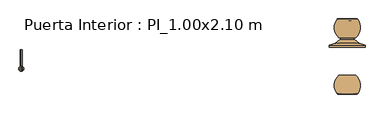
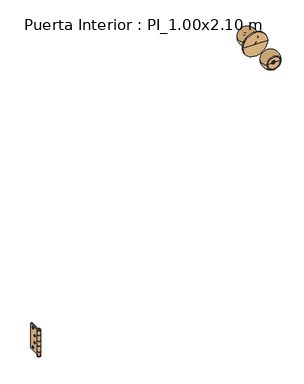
"""IFC4 building model written with IfcOpenShell, lengths in millimetres: door geometry, Puerta Interior : PI_1.00x2.10 m."""

from ifc_helpers import new_model, si_unit, point, frame, origin, place, context, project, spatial, polyline, circle_curve, ellipse_curve, trimmed, source, transform, mapped, element, save
from ifc_brep_helpers import plane_surface, cylinder_surface, revolved_surface, advanced_brep


def puerta_interior_pi_1_00x2_10_m_a31ecc94(model_context):
    return source(origin(), model_context, "Body", "AdvancedBrep", [
        advanced_brep(
        [(-464.0, -7.5, 200.0349265), (-464.0, -51.5, 200.0349265), (-464.0, -51.5, 184.5349265), (-464.0, -51.0, 184.5349265), (-464.0, -51.0, 159.0349265), (-464.0, -51.5, 159.0349265), (-464.0, -51.5, 141.0349265), (-464.0, -51.0, 141.0349265), (-464.0, -51.0, 115.5349265), (-464.0, -51.5, 115.5349265), (-464.0, -51.5, 100.0349265), (-464.0, -7.5, 100.0349265), (-464.0, -17.5, 111.0349265), (-464.0, -25.5, 111.0349265), (-464.0, -28.5, 136.0349265), (-464.0, -36.5, 136.0349265), (-464.0, -17.5, 189.0349265), (-464.0, -25.5, 189.0349265), (-464.0, -28.5, 164.0349265), (-464.0, -36.5, 164.0349265), (-466.0, -7.5, 100.0349265), (-466.0, -53.027864, 100.0349265), (-466.0, -53.027864, 115.5349265), (-466.0, -51.0, 115.5349265), (-466.0, -51.0, 141.0349265), (-466.0, -53.027864, 141.0349265), (-466.0, -53.027864, 159.0349265), (-466.0, -51.0, 159.0349265), (-466.0, -51.0, 184.5349265), (-466.0, -53.027864, 184.5349265), (-466.0, -53.027864, 200.0349265), (-466.0, -7.5, 200.0349265), (-466.0, -25.5, 111.0349265), (-466.0, -17.5, 111.0349265), (-466.0, -36.5, 136.0349265), (-466.0, -28.5, 136.0349265), (-466.0, -25.5, 189.0349265), (-466.0, -17.5, 189.0349265), (-466.0, -36.5, 164.0349265), (-466.0, -28.5, 164.0349265), (-467.0, -51.0192593, 100.0349265), (-467.0, -53.027864, 100.0349265), (-467.0, -53.027864, 200.0349265), (-467.0, -51.0192593, 200.0349265), (-467.0, -51.0192593, 184.5349265), (-467.0, -53.027864, 184.5349265), (-467.0, -53.027864, 159.0349265), (-467.0, -51.0192593, 159.0349265), (-467.0, -51.0192593, 141.0349265), (-467.0, -53.027864, 141.0349265), (-467.0, -53.027864, 115.5349265), (-467.0, -51.0192593, 115.5349265)],
        [
            (0, 1),
            (1, 2),
            (2, 3),
            (3, 4),
            (4, 5),
            (5, 6),
            (6, 7),
            (7, 8),
            (8, 9),
            (9, 10),
            (10, 11),
            (11, 0),
            (12, 13, circle_curve(frame((-464.0, -21.5, 111.0349265), z_axis=(-1.0, 0.0, 0.0), x_axis=(0.0, 1.0, 0.0)), 4.0)),
            (13, 12, circle_curve(frame((-464.0, -21.5, 111.0349265), z_axis=(-1.0, 0.0, 0.0), x_axis=(0.0, 1.0, 0.0)), 4.0)),
            (14, 15, circle_curve(frame((-464.0, -32.5, 136.0349265), z_axis=(-1.0, 0.0, 0.0), x_axis=(0.0, 1.0, 0.0)), 4.0)),
            (15, 14, circle_curve(frame((-464.0, -32.5, 136.0349265), z_axis=(-1.0, 0.0, 0.0), x_axis=(0.0, 1.0, 0.0)), 4.0)),
            (16, 17, circle_curve(frame((-464.0, -21.5, 189.0349265), z_axis=(-1.0, 0.0, 0.0), x_axis=(0.0, 1.0, 0.0)), 4.0)),
            (17, 16, circle_curve(frame((-464.0, -21.5, 189.0349265), z_axis=(-1.0, 0.0, 0.0), x_axis=(0.0, 1.0, 0.0)), 4.0)),
            (18, 19, circle_curve(frame((-464.0, -32.5, 164.0349265), z_axis=(-1.0, 0.0, 0.0), x_axis=(0.0, 1.0, 0.0)), 4.0)),
            (19, 18, circle_curve(frame((-464.0, -32.5, 164.0349265), z_axis=(-1.0, 0.0, 0.0), x_axis=(0.0, 1.0, 0.0)), 4.0)),
            (20, 21),
            (21, 22),
            (22, 23),
            (23, 24),
            (24, 25),
            (25, 26),
            (26, 27),
            (27, 28),
            (28, 29),
            (29, 30),
            (30, 31),
            (31, 20),
            (32, 33, circle_curve(frame((-466.0, -21.5, 111.0349265), z_axis=(1.0, 0.0, 0.0), x_axis=(0.0, 1.0, 0.0)), 4.0)),
            (33, 32, circle_curve(frame((-466.0, -21.5, 111.0349265), z_axis=(1.0, 0.0, 0.0), x_axis=(0.0, 1.0, 0.0)), 4.0)),
            (34, 35, circle_curve(frame((-466.0, -32.5, 136.0349265), z_axis=(1.0, 0.0, 0.0), x_axis=(0.0, 1.0, 0.0)), 4.0)),
            (35, 34, circle_curve(frame((-466.0, -32.5, 136.0349265), z_axis=(1.0, 0.0, 0.0), x_axis=(0.0, 1.0, 0.0)), 4.0)),
            (36, 37, circle_curve(frame((-466.0, -21.5, 189.0349265), z_axis=(1.0, 0.0, 0.0), x_axis=(0.0, 1.0, 0.0)), 4.0)),
            (37, 36, circle_curve(frame((-466.0, -21.5, 189.0349265), z_axis=(1.0, 0.0, 0.0), x_axis=(0.0, 1.0, 0.0)), 4.0)),
            (38, 39, circle_curve(frame((-466.0, -32.5, 164.0349265), z_axis=(1.0, 0.0, 0.0), x_axis=(0.0, 1.0, 0.0)), 4.0)),
            (39, 38, circle_curve(frame((-466.0, -32.5, 164.0349265), z_axis=(1.0, 0.0, 0.0), x_axis=(0.0, 1.0, 0.0)), 4.0)),
            (10, 40, circle_curve(frame((-466.5, -57.5, 100.0349265), z_axis=(0.0, 0.0, -1.0), x_axis=(0.0, -1.0, 0.0)), 6.5)),
            (40, 41),
            (41, 21, circle_curve(frame((-466.5, -57.5, 100.0349265), z_axis=(0.0, 0.0, 1.0), x_axis=(0.0, -1.0, 0.0)), 4.5)),
            (20, 11),
            (31, 0),
            (30, 42, circle_curve(frame((-466.5, -57.5, 200.0349265), z_axis=(0.0, 0.0, -1.0), x_axis=(0.0, -1.0, 0.0)), 4.5)),
            (42, 43),
            (43, 1, circle_curve(frame((-466.5, -57.5, 200.0349265), z_axis=(0.0, 0.0, 1.0), x_axis=(0.0, -1.0, 0.0)), 6.5)),
            (27, 4),
            (3, 28),
            (23, 8),
            (7, 24),
            (2, 44, circle_curve(frame((-466.5, -57.5, 184.5349265), z_axis=(0.0, 0.0, -1.0), x_axis=(0.0, -1.0, 0.0)), 6.5)),
            (44, 45),
            (45, 29, circle_curve(frame((-466.5, -57.5, 184.5349265), z_axis=(0.0, 0.0, 1.0), x_axis=(0.0, -1.0, 0.0)), 4.5)),
            (43, 44),
            (42, 45),
            (26, 46, circle_curve(frame((-466.5, -57.5, 159.0349265), z_axis=(0.0, 0.0, -1.0), x_axis=(0.0, -1.0, 0.0)), 4.5)),
            (46, 47),
            (47, 5, circle_curve(frame((-466.5, -57.5, 159.0349265), z_axis=(0.0, 0.0, 1.0), x_axis=(0.0, -1.0, 0.0)), 6.5)),
            (6, 48, circle_curve(frame((-466.5, -57.5, 141.0349265), z_axis=(0.0, 0.0, -1.0), x_axis=(0.0, -1.0, 0.0)), 6.5)),
            (48, 49),
            (49, 25, circle_curve(frame((-466.5, -57.5, 141.0349265), z_axis=(0.0, 0.0, 1.0), x_axis=(0.0, -1.0, 0.0)), 4.5)),
            (47, 48),
            (46, 49),
            (22, 50, circle_curve(frame((-466.5, -57.5, 115.5349265), z_axis=(0.0, 0.0, -1.0), x_axis=(0.0, -1.0, 0.0)), 4.5)),
            (50, 51),
            (51, 9, circle_curve(frame((-466.5, -57.5, 115.5349265), z_axis=(0.0, 0.0, 1.0), x_axis=(0.0, -1.0, 0.0)), 6.5)),
            (51, 40),
            (50, 41),
            (33, 12),
            (13, 32),
            (35, 14),
            (15, 34),
            (37, 16),
            (17, 36),
            (39, 18),
            (19, 38),
        ],
        [
            plane_surface(frame((-464.0, -51.0, 100.0349265), z_axis=(1.0, 0.0, 0.0), x_axis=(0.0, 0.0, 1.0))),
            plane_surface(frame((-466.0, -51.0, 100.0349265), z_axis=(-1.0, 0.0, 0.0), x_axis=(0.0, 0.0, -1.0))),
            plane_surface(frame((-464.0, -7.5, 100.0349265), z_axis=(0.0, 0.0, -1.0), x_axis=(-1.0, 0.0, 0.0))),
            plane_surface(frame((-464.0, -7.5, 200.0349265), z_axis=(0.0, 1.0, 0.0), x_axis=(-1.0, 0.0, 0.0))),
            plane_surface(frame((-464.0, -51.0, 200.0349265), z_axis=(0.0, 0.0, 1.0), x_axis=(-1.0, 0.0, 0.0))),
            plane_surface(frame((-464.0, -51.0, 100.0349265), z_axis=(0.0, -1.0, 0.0), x_axis=(-1.0, 0.0, 0.0))),
            plane_surface(frame((-466.0, -51.0, 184.5349265), z_axis=(0.0, 0.0, -1.0), x_axis=(0.0, -1.0, 0.0))),
            cylinder_surface(frame((-466.5, -57.5, 184.5349265), z_axis=(0.0, 0.0, 1.0), x_axis=(0.0, -1.0, 0.0)), 6.5),
            plane_surface(frame((-467.0, -51.0192593, 200.0349265), z_axis=(1.0, 0.0, 0.0), x_axis=(0.0, 0.0, -1.0))),
            revolved_surface(polyline([(-466.5, -62.0, 184.5349265), (-466.5, -62.0, 200.0349265)]), (-466.5, -57.5, 184.5349265), (0.0, 0.0, -1.0)),
            plane_surface(frame((-466.0, -51.0, 159.0349265), z_axis=(0.0, 0.0, 1.0), x_axis=(0.0, 1.0, 0.0))),
            plane_surface(frame((-466.0, -51.0, 141.0349265), z_axis=(0.0, 0.0, -1.0), x_axis=(0.0, -1.0, 0.0))),
            cylinder_surface(frame((-466.5, -57.5, 141.0349265), z_axis=(0.0, 0.0, 1.0), x_axis=(0.0, -1.0, 0.0)), 6.5),
            plane_surface(frame((-467.0, -51.0192593, 159.0349265), z_axis=(1.0, 0.0, 0.0), x_axis=(0.0, 0.0, -1.0))),
            revolved_surface(polyline([(-466.5, -62.0, 141.0349265), (-466.5, -62.0, 159.0349265)]), (-466.5, -57.5, 141.0349265), (0.0, 0.0, -1.0)),
            plane_surface(frame((-466.0, -51.0, 115.5349265), z_axis=(0.0, 0.0, 1.0), x_axis=(0.0, 1.0, 0.0))),
            cylinder_surface(frame((-466.5, -57.5, 100.0349265), z_axis=(0.0, 0.0, 1.0), x_axis=(0.0, -1.0, 0.0)), 6.5),
            plane_surface(frame((-467.0, -51.0192593, 115.5349265), z_axis=(1.0, 0.0, 0.0), x_axis=(0.0, 0.0, -1.0))),
            revolved_surface(polyline([(-466.5, -62.0, 100.0349265), (-466.5, -62.0, 115.5349265)]), (-466.5, -57.5, 100.0349265), (0.0, 0.0, -1.0)),
            revolved_surface(polyline([(-464.0, -17.5, 111.0349265), (-466.0, -17.5, 111.0349265)]), (-469.0, -21.5, 111.0349265), (1.0, 0.0, 0.0)),
            revolved_surface(polyline([(-464.0, -28.5, 136.0349265), (-466.0, -28.5, 136.0349265)]), (-467.0, -32.5, 136.0349265), (1.0, 0.0, 0.0)),
            revolved_surface(polyline([(-464.0, -17.5, 189.0349265), (-466.0, -17.5, 189.0349265)]), (-467.0, -21.5, 189.0349265), (1.0, 0.0, 0.0)),
            revolved_surface(polyline([(-464.0, -28.5, 164.0349265), (-466.0, -28.5, 164.0349265)]), (-467.0, -32.5, 164.0349265), (1.0, 0.0, 0.0)),
        ],
        [
            (0, [[1, 2, 3, 4, 5, 6, 7, 8, 9, 10, 11, 12], [13, 14], [15, 16], [17, 18], [19, 20]]),
            (1, [[21, 22, 23, 24, 25, 26, 27, 28, 29, 30, 31, 32], [33, 34], [35, 36], [37, 38], [39, 40]]),
            (2, [[-11, 41, 42, 43, -21, 44]]),
            (3, [[-44, -32, 45, -12]]),
            (4, [[-31, 46, 47, 48, -1, -45]]),
            (5, [[-28, 49, -4, 50]]),
            (5, [[-24, 51, -8, 52]]),
            (6, [[-29, -50, -3, 53, 54, 55]]),
            (7, [[56, -53, -2, -48]]),
            (8, [[57, -54, -56, -47]]),
            (9, [[-30, -55, -57, -46]]),
            (10, [[-5, -49, -27, 58, 59, 60]]),
            (11, [[-25, -52, -7, 61, 62, 63]]),
            (12, [[64, -61, -6, -60]]),
            (13, [[65, -62, -64, -59]]),
            (14, [[-26, -63, -65, -58]]),
            (15, [[-9, -51, -23, 66, 67, 68]]),
            (16, [[69, -41, -10, -68]]),
            (17, [[70, -42, -69, -67]]),
            (18, [[-22, -43, -70, -66]]),
            (19, [[-34, 71, -14, 72]]),
            (19, [[-13, -71, -33, -72]]),
            (20, [[-36, 73, -16, 74]]),
            (20, [[-15, -73, -35, -74]]),
            (21, [[-38, 75, -18, 76]]),
            (21, [[-17, -75, -37, -76]]),
            (22, [[-40, 77, -20, 78]]),
            (22, [[-19, -77, -39, -78]]),
        ],
    ),
        advanced_brep(
        [(-466.5, -53.0, 204.0349265), (-466.5, -53.0, 200.5349265), (-466.5, -61.9442719, 200.5349265), (-466.5, -61.9442719, 204.0349265), (-466.5, -57.472136, 204.0349265), (-466.5, -53.0, 96.0349265), (-466.5, -57.472136, 96.0349265), (-466.5, -61.9442719, 96.0349265), (-466.5, -53.0, 99.5349265), (-466.5, -61.9442719, 99.5349265)],
        [
            (0, 1, circle_curve(frame((-466.5, -53.0, 202.2849265), z_axis=(-1.0, 0.0, 0.0), x_axis=(0.0, -1.0, 0.0)), 1.75)),
            (1, 2, circle_curve(frame((-466.5, -57.472136, 200.5349265), z_axis=(0.0, 0.0, 1.0), x_axis=(0.0, -1.0, 0.0)), 4.472136)),
            (2, 3, circle_curve(frame((-466.5, -61.9442719, 202.2849265), z_axis=(-1.0, 0.0, 0.0), x_axis=(0.0, 1.0, 0.0)), 1.75)),
            (3, 0, circle_curve(frame((-466.5, -57.472136, 204.0349265), z_axis=(0.0, 0.0, -1.0), x_axis=(0.0, -1.0, 0.0)), 4.472136)),
            (2, 1, circle_curve(frame((-466.5, -57.472136, 200.5349265), z_axis=(0.0, 0.0, 1.0), x_axis=(0.0, -1.0, 0.0)), 4.472136)),
            (0, 3, circle_curve(frame((-466.5, -57.472136, 204.0349265), z_axis=(0.0, 0.0, -1.0), x_axis=(0.0, -1.0, 0.0)), 4.472136)),
            (4, 0),
            (3, 4),
            (5, 6),
            (6, 7),
            (7, 5, circle_curve(frame((-466.5, -57.472136, 96.0349265), z_axis=(0.0, 0.0, -1.0), x_axis=(0.0, -1.0, 0.0)), 4.472136)),
            (5, 7, circle_curve(frame((-466.5, -57.472136, 96.0349265), z_axis=(0.0, 0.0, -1.0), x_axis=(0.0, -1.0, 0.0)), 4.472136)),
            (8, 5, circle_curve(frame((-466.5, -53.0, 97.7849265), z_axis=(-1.0, 0.0, 0.0), x_axis=(0.0, -1.0, 0.0)), 1.75)),
            (7, 9, circle_curve(frame((-466.5, -61.9442719, 97.7849265), z_axis=(-1.0, 0.0, 0.0), x_axis=(0.0, 1.0, 0.0)), 1.75)),
            (9, 8, circle_curve(frame((-466.5, -57.472136, 99.5349265), z_axis=(0.0, 0.0, -1.0), x_axis=(0.0, -1.0, 0.0)), 4.472136)),
            (8, 9, circle_curve(frame((-466.5, -57.472136, 99.5349265), z_axis=(0.0, 0.0, -1.0), x_axis=(0.0, -1.0, 0.0)), 4.472136)),
            (1, 8),
            (9, 2),
        ],
        [
            revolved_surface(trimmed(ellipse_curve(frame((-466.5, -61.9442719, 202.2849265), z_axis=(-1.0, 0.0, 0.0), x_axis=(0.0, 1.0, 0.0)), 1.75, 1.75), [point((-466.5, -61.9442719, 200.5349265))], [point((-466.5, -61.9442719, 204.0349265))], True, "CARTESIAN"), (-466.5, -57.472136, 204.0349265), (0.0, 0.0, 1.0)),
            plane_surface(frame((-466.5, -57.472136, 204.0349265), z_axis=(0.0, 0.0, 1.0), x_axis=(0.0, -1.0, 0.0))),
            plane_surface(frame((-466.5, -57.472136, 96.0349265), z_axis=(0.0, 0.0, -1.0), x_axis=(0.0, -1.0, 0.0))),
            revolved_surface(trimmed(ellipse_curve(frame((-466.5, -61.9442719, 97.7849265), z_axis=(-1.0, 0.0, 0.0), x_axis=(0.0, 1.0, 0.0)), 1.75, 1.75), [point((-466.5, -61.9442719, 96.0349265))], [point((-466.5, -61.9442719, 99.5349265))], True, "CARTESIAN"), (-466.5, -57.472136, 204.0349265), (0.0, 0.0, 1.0)),
            cylinder_surface(frame((-466.5, -57.472136, 204.0349265), z_axis=(0.0, 0.0, 1.0), x_axis=(0.0, -1.0, 0.0)), 4.472136),
        ],
        [
            (0, [[1, 2, 3, 4]]),
            (0, [[-3, 5, -1, 6]]),
            (1, [[7, -4, 8]]),
            (1, [[-8, -6, -7]]),
            (2, [[9, 10, 11]]),
            (2, [[-10, -9, 12]]),
            (3, [[13, -11, 14, 15]]),
            (3, [[-14, -12, -13, 16]]),
            (4, [[17, -15, 18, -2]]),
            (4, [[-18, -16, -17, -5]]),
        ],
    ),
        advanced_brep(
        [(-467.0, -51.0, 200.0349265), (-467.0, -51.0, 183.5349265), (-467.0, -53.027864, 183.5349265), (-467.0, -53.027864, 160.0349265), (-467.0, -51.0, 160.0349265), (-467.0, -51.0, 140.0349265), (-467.0, -53.027864, 140.0349265), (-467.0, -53.027864, 116.5349265), (-467.0, -51.0, 116.5349265), (-467.0, -51.0, 100.0349265), (-467.0, -7.5, 100.0349265), (-467.0, -7.5, 200.0349265), (-467.0, -17.5, 111.0349265), (-467.0, -25.5, 111.0349265), (-467.0, -28.5, 136.0349265), (-467.0, -36.5, 136.0349265), (-467.0, -17.5, 189.0349265), (-467.0, -25.5, 189.0349265), (-467.0, -28.5, 164.0349265), (-467.0, -36.5, 164.0349265), (-469.0, -51.0, 100.0349265), (-469.0, -51.0, 116.5349265), (-469.0, -51.5, 116.5349265), (-469.0, -51.5, 140.0349265), (-469.0, -51.0, 140.0349265), (-469.0, -51.0, 160.0349265), (-469.0, -51.5, 160.0349265), (-469.0, -51.5, 183.5349265), (-469.0, -51.0, 183.5349265), (-469.0, -51.0, 200.0349265), (-469.0, -7.5, 200.0349265), (-469.0, -7.5, 100.0349265), (-469.0, -25.5, 111.0349265), (-469.0, -17.5, 111.0349265), (-469.0, -36.5, 136.0349265), (-469.0, -28.5, 136.0349265), (-469.0, -25.5, 189.0349265), (-469.0, -17.5, 189.0349265), (-469.0, -36.5, 164.0349265), (-469.0, -28.5, 164.0349265), (-466.0, -51.0192593, 183.5349265), (-466.0, -53.027864, 183.5349265), (-466.0, -53.027864, 160.0349265), (-466.0, -51.0192593, 160.0349265), (-466.0, -51.0192593, 140.0349265), (-466.0, -53.027864, 140.0349265), (-466.0, -53.027864, 116.5349265), (-466.0, -51.0192593, 116.5349265)],
        [
            (0, 1),
            (1, 2),
            (2, 3),
            (3, 4),
            (4, 5),
            (5, 6),
            (6, 7),
            (7, 8),
            (8, 9),
            (9, 10),
            (10, 11),
            (11, 0),
            (12, 13, circle_curve(frame((-467.0, -21.5, 111.0349265), z_axis=(-1.0, 0.0, 0.0), x_axis=(0.0, 1.0, 0.0)), 4.0)),
            (13, 12, circle_curve(frame((-467.0, -21.5, 111.0349265), z_axis=(-1.0, 0.0, 0.0), x_axis=(0.0, 1.0, 0.0)), 4.0)),
            (14, 15, circle_curve(frame((-467.0, -32.5, 136.0349265), z_axis=(-1.0, 0.0, 0.0), x_axis=(0.0, 1.0, 0.0)), 4.0)),
            (15, 14, circle_curve(frame((-467.0, -32.5, 136.0349265), z_axis=(-1.0, 0.0, 0.0), x_axis=(0.0, 1.0, 0.0)), 4.0)),
            (16, 17, circle_curve(frame((-467.0, -21.5, 189.0349265), z_axis=(-1.0, 0.0, 0.0), x_axis=(0.0, 1.0, 0.0)), 4.0)),
            (17, 16, circle_curve(frame((-467.0, -21.5, 189.0349265), z_axis=(-1.0, 0.0, 0.0), x_axis=(0.0, 1.0, 0.0)), 4.0)),
            (18, 19, circle_curve(frame((-467.0, -32.5, 164.0349265), z_axis=(-1.0, 0.0, 0.0), x_axis=(0.0, 1.0, 0.0)), 4.0)),
            (19, 18, circle_curve(frame((-467.0, -32.5, 164.0349265), z_axis=(-1.0, 0.0, 0.0), x_axis=(0.0, 1.0, 0.0)), 4.0)),
            (20, 21),
            (21, 22),
            (22, 23),
            (23, 24),
            (24, 25),
            (25, 26),
            (26, 27),
            (27, 28),
            (28, 29),
            (29, 30),
            (30, 31),
            (31, 20),
            (32, 33, circle_curve(frame((-469.0, -21.5, 111.0349265), z_axis=(1.0, 0.0, 0.0), x_axis=(0.0, 1.0, 0.0)), 4.0)),
            (33, 32, circle_curve(frame((-469.0, -21.5, 111.0349265), z_axis=(1.0, 0.0, 0.0), x_axis=(0.0, 1.0, 0.0)), 4.0)),
            (34, 35, circle_curve(frame((-469.0, -32.5, 136.0349265), z_axis=(1.0, 0.0, 0.0), x_axis=(0.0, 1.0, 0.0)), 4.0)),
            (35, 34, circle_curve(frame((-469.0, -32.5, 136.0349265), z_axis=(1.0, 0.0, 0.0), x_axis=(0.0, 1.0, 0.0)), 4.0)),
            (36, 37, circle_curve(frame((-469.0, -21.5, 189.0349265), z_axis=(1.0, 0.0, 0.0), x_axis=(0.0, 1.0, 0.0)), 4.0)),
            (37, 36, circle_curve(frame((-469.0, -21.5, 189.0349265), z_axis=(1.0, 0.0, 0.0), x_axis=(0.0, 1.0, 0.0)), 4.0)),
            (38, 39, circle_curve(frame((-469.0, -32.5, 164.0349265), z_axis=(1.0, 0.0, 0.0), x_axis=(0.0, 1.0, 0.0)), 4.0)),
            (39, 38, circle_curve(frame((-469.0, -32.5, 164.0349265), z_axis=(1.0, 0.0, 0.0), x_axis=(0.0, 1.0, 0.0)), 4.0)),
            (9, 20),
            (31, 10),
            (30, 11),
            (29, 0),
            (8, 21),
            (28, 1),
            (24, 5),
            (4, 25),
            (27, 40, circle_curve(frame((-466.5, -57.5, 183.5349265), z_axis=(0.0, 0.0, 1.0), x_axis=(0.0, -1.0, 0.0)), 6.5)),
            (40, 41),
            (41, 2, circle_curve(frame((-466.5, -57.5, 183.5349265), z_axis=(0.0, 0.0, -1.0), x_axis=(0.0, -1.0, 0.0)), 4.5)),
            (3, 42, circle_curve(frame((-466.5, -57.5, 160.0349265), z_axis=(0.0, 0.0, 1.0), x_axis=(0.0, -1.0, 0.0)), 4.5)),
            (42, 43),
            (43, 26, circle_curve(frame((-466.5, -57.5, 160.0349265), z_axis=(0.0, 0.0, -1.0), x_axis=(0.0, -1.0, 0.0)), 6.5)),
            (43, 40),
            (42, 41),
            (23, 44, circle_curve(frame((-466.5, -57.5, 140.0349265), z_axis=(0.0, 0.0, 1.0), x_axis=(0.0, -1.0, 0.0)), 6.5)),
            (44, 45),
            (45, 6, circle_curve(frame((-466.5, -57.5, 140.0349265), z_axis=(0.0, 0.0, -1.0), x_axis=(0.0, -1.0, 0.0)), 4.5)),
            (7, 46, circle_curve(frame((-466.5, -57.5, 116.5349265), z_axis=(0.0, 0.0, 1.0), x_axis=(0.0, -1.0, 0.0)), 4.5)),
            (46, 47),
            (47, 22, circle_curve(frame((-466.5, -57.5, 116.5349265), z_axis=(0.0, 0.0, -1.0), x_axis=(0.0, -1.0, 0.0)), 6.5)),
            (47, 44),
            (46, 45),
            (33, 12),
            (13, 32),
            (35, 14),
            (15, 34),
            (37, 16),
            (17, 36),
            (39, 18),
            (19, 38),
        ],
        [
            plane_surface(frame((-467.0, -51.0, 100.0349265), z_axis=(1.0, 0.0, 0.0), x_axis=(0.0, 0.0, 1.0))),
            plane_surface(frame((-469.0, -51.0, 100.0349265), z_axis=(-1.0, 0.0, 0.0), x_axis=(0.0, 0.0, -1.0))),
            plane_surface(frame((-467.0, -7.5, 100.0349265), z_axis=(0.0, 0.0, -1.0), x_axis=(-1.0, 0.0, 0.0))),
            plane_surface(frame((-467.0, -7.5, 200.0349265), z_axis=(0.0, 1.0, 0.0), x_axis=(-1.0, 0.0, 0.0))),
            plane_surface(frame((-467.0, -51.0, 200.0349265), z_axis=(0.0, 0.0, 1.0), x_axis=(-1.0, 0.0, 0.0))),
            plane_surface(frame((-467.0, -51.0, 100.0349265), z_axis=(0.0, -1.0, 0.0), x_axis=(-1.0, 0.0, 0.0))),
            plane_surface(frame((-466.5, -62.0, 183.5349265), z_axis=(0.0, 0.0, 1.0), x_axis=(1.0, 0.0, 0.0))),
            plane_surface(frame((-466.5, -62.0, 160.0349265), z_axis=(0.0, 0.0, -1.0), x_axis=(-1.0, 0.0, 0.0))),
            cylinder_surface(frame((-466.5, -57.5, 160.0349265), z_axis=(0.0, 0.0, 1.0), x_axis=(0.0, -1.0, 0.0)), 6.5),
            plane_surface(frame((-466.0, -53.027864, 183.5349265), z_axis=(-1.0, 0.0, 0.0), x_axis=(0.0, 0.0, -1.0))),
            revolved_surface(polyline([(-466.5, -62.0, 160.0349265), (-466.5, -62.0, 183.5349265)]), (-466.5, -57.5, 160.0349265), (0.0, 0.0, -1.0)),
            plane_surface(frame((-466.5, -62.0, 140.0349265), z_axis=(0.0, 0.0, 1.0), x_axis=(1.0, 0.0, 0.0))),
            plane_surface(frame((-466.5, -62.0, 116.5349265), z_axis=(0.0, 0.0, -1.0), x_axis=(-1.0, 0.0, 0.0))),
            cylinder_surface(frame((-466.5, -57.5, 116.5349265), z_axis=(0.0, 0.0, 1.0), x_axis=(0.0, -1.0, 0.0)), 6.5),
            plane_surface(frame((-466.0, -53.027864, 140.0349265), z_axis=(-1.0, 0.0, 0.0), x_axis=(0.0, 0.0, -1.0))),
            revolved_surface(polyline([(-466.5, -62.0, 116.5349265), (-466.5, -62.0, 140.0349265)]), (-466.5, -57.5, 116.5349265), (0.0, 0.0, -1.0)),
            revolved_surface(polyline([(-467.0, -17.5, 111.0349265), (-469.0, -17.5, 111.0349265)]), (-469.0, -21.5, 111.0349265), (1.0, 0.0, 0.0)),
            revolved_surface(polyline([(-467.0, -28.5, 136.0349265), (-469.0, -28.5, 136.0349265)]), (-467.0, -32.5, 136.0349265), (1.0, 0.0, 0.0)),
            revolved_surface(polyline([(-467.0, -17.5, 189.0349265), (-469.0, -17.5, 189.0349265)]), (-467.0, -21.5, 189.0349265), (1.0, 0.0, 0.0)),
            revolved_surface(polyline([(-467.0, -28.5, 164.0349265), (-469.0, -28.5, 164.0349265)]), (-467.0, -32.5, 164.0349265), (1.0, 0.0, 0.0)),
        ],
        [
            (0, [[1, 2, 3, 4, 5, 6, 7, 8, 9, 10, 11, 12], [13, 14], [15, 16], [17, 18], [19, 20]]),
            (1, [[21, 22, 23, 24, 25, 26, 27, 28, 29, 30, 31, 32], [33, 34], [35, 36], [37, 38], [39, 40]]),
            (2, [[41, -32, 42, -10]]),
            (3, [[-42, -31, 43, -11]]),
            (4, [[-43, -30, 44, -12]]),
            (5, [[-9, 45, -21, -41]]),
            (5, [[-29, 46, -1, -44]]),
            (5, [[-25, 47, -5, 48]]),
            (6, [[-2, -46, -28, 49, 50, 51]]),
            (7, [[-26, -48, -4, 52, 53, 54]]),
            (8, [[-27, -54, 55, -49]]),
            (9, [[-55, -53, 56, -50]]),
            (10, [[-56, -52, -3, -51]]),
            (11, [[-6, -47, -24, 57, 58, 59]]),
            (12, [[-22, -45, -8, 60, 61, 62]]),
            (13, [[-23, -62, 63, -57]]),
            (14, [[-63, -61, 64, -58]]),
            (15, [[-64, -60, -7, -59]]),
            (16, [[-34, 65, -14, 66]]),
            (16, [[-13, -65, -33, -66]]),
            (17, [[-36, 67, -16, 68]]),
            (17, [[-15, -67, -35, -68]]),
            (18, [[-38, 69, -18, 70]]),
            (18, [[-17, -69, -37, -70]]),
            (19, [[-40, 71, -20, 72]]),
            (19, [[-19, -71, -39, -72]]),
        ],
    ),
        advanced_brep(
        [(423.5312643, 74.946362, 1025.0174632), (406.48125, 70.0573491, 1025.0174632), (394.08125, 70.0573491, 1025.0174632), (377.0312357, 74.946362, 1025.0174632), (406.48125, 66.5726145, 1025.0174632), (394.08125, 66.5726145, 1025.0174632), (400.28125, 66.5726145, 1025.0174632), (377.840796, 25.0, 1025.0174632), (399.28125, 25.0, 1025.0174632), (400.28125, 25.0, 1025.0174632), (400.28125, 25.0, 1029.2407976), (401.28125, 25.0, 1029.2407976), (401.28125, 25.0, 1025.0174632), (422.721704, 25.0, 1025.0174632), (401.28125, 25.0, 1020.937297), (399.28125, 25.0, 1020.937297), (399.28125, 25.0, 1022.5683489), (400.28125, 25.0, 1022.5683489), (400.28125, 25.0, 1023.7959278), (399.28125, 25.0, 1023.7959278), (427.7045262, 73.6071088, 1025.0174632), (372.8579738, 73.6071088, 1025.0174632), (401.28125, 33.4273855, 1020.937297), (401.28125, 33.4273855, 1029.2407976), (400.28125, 33.4273855, 1029.2407976), (400.28125, 33.4273855, 1025.0174632), (399.28125, 33.4273855, 1025.0174632), (399.28125, 33.4273855, 1023.7959278), (400.28125, 33.4273855, 1023.7959278), (400.28125, 33.4273855, 1022.5683489), (399.28125, 33.4273855, 1022.5683489), (399.28125, 33.4273855, 1020.937297)],
        [
            (0, 1),
            (1, 2, circle_curve(frame((400.28125, 70.0573491, 1025.0174632), z_axis=(0.0, -1.0, 0.0), x_axis=(-1.0, 0.0, 0.0)), 6.2)),
            (2, 3),
            (3, 0, circle_curve(frame((400.28125, 74.946362, 1025.0174632), z_axis=(0.0, 1.0, 0.0), x_axis=(-1.0, 0.0, 0.0)), 23.2500143)),
            (2, 1, circle_curve(frame((400.28125, 70.0573491, 1025.0174632), z_axis=(0.0, -1.0, 0.0), x_axis=(-1.0, 0.0, 0.0)), 6.2)),
            (0, 3, circle_curve(frame((400.28125, 74.946362, 1025.0174632), z_axis=(0.0, 1.0, 0.0), x_axis=(-1.0, 0.0, 0.0)), 23.2500143)),
            (1, 4),
            (4, 5, circle_curve(frame((400.28125, 66.5726145, 1025.0174632), z_axis=(0.0, -1.0, 0.0), x_axis=(-1.0, 0.0, 0.0)), 6.2)),
            (5, 2),
            (5, 4, circle_curve(frame((400.28125, 66.5726145, 1025.0174632), z_axis=(0.0, -1.0, 0.0), x_axis=(-1.0, 0.0, 0.0)), 6.2)),
            (4, 6),
            (6, 5),
            (7, 8),
            (8, 9),
            (9, 10),
            (10, 11),
            (11, 12),
            (12, 13),
            (13, 7, circle_curve(frame((400.28125, 25.0, 1025.0174632), z_axis=(0.0, -1.0, 0.0), x_axis=(-1.0, 0.0, 0.0)), 22.440454)),
            (12, 14),
            (14, 15),
            (15, 16),
            (16, 17),
            (17, 18),
            (18, 19),
            (19, 8),
            (7, 13, circle_curve(frame((400.28125, 25.0, 1025.0174632), z_axis=(0.0, -1.0, 0.0), x_axis=(-1.0, 0.0, 0.0)), 22.440454)),
            (13, 20, circle_curve(frame((400.28125, 51.859375, 1025.0174632), z_axis=(0.0, 0.0, 1.0), x_axis=(-1.0, 0.0, 0.0)), 35.0)),
            (20, 21, circle_curve(frame((400.28125, 73.6071088, 1025.0174632), z_axis=(0.0, -1.0, 0.0), x_axis=(-1.0, 0.0, 0.0)), 27.4232762)),
            (21, 7, circle_curve(frame((400.28125, 51.859375, 1025.0174632), z_axis=(0.0, 0.0, 1.0), x_axis=(1.0, 0.0, 0.0)), 35.0)),
            (21, 20, circle_curve(frame((400.28125, 73.6071088, 1025.0174632), z_axis=(0.0, -1.0, 0.0), x_axis=(-1.0, 0.0, 0.0)), 27.4232762)),
            (3, 21, circle_curve(frame((375.9451794, 71.1588336, 1025.0174632), z_axis=(0.0, 0.0, 1.0), x_axis=(1.0, 0.0, 0.0)), 3.9401636)),
            (20, 0, circle_curve(frame((424.6173206, 71.1588336, 1025.0174632), z_axis=(0.0, 0.0, 1.0), x_axis=(-1.0, 0.0, 0.0)), 3.9401636)),
            (22, 23),
            (23, 24),
            (24, 25),
            (25, 26),
            (26, 27),
            (27, 28),
            (28, 29),
            (29, 30),
            (30, 31),
            (31, 22),
            (31, 15),
            (14, 22),
            (30, 16),
            (29, 17),
            (28, 18),
            (27, 19),
            (26, 8),
            (25, 9),
            (24, 10),
            (23, 11),
        ],
        [
            revolved_surface(polyline([(394.08125, 70.0573491, 1025.0174632), (377.0312357, 74.946362, 1025.0174632)]), (400.28125, 27.0, 1025.0174632), (0.0, -1.0, 0.0)),
            revolved_surface(polyline([(394.08125, 66.5726145, 1025.0174632), (394.08125, 70.0573491, 1025.0174632)]), (400.28125, 27.0, 1025.0174632), (0.0, -1.0, 0.0)),
            plane_surface(frame((400.28125, 66.5726145, 1025.0174632), z_axis=(0.0, 1.0, 0.0), x_axis=(-1.0, 0.0, 0.0))),
            plane_surface(frame((400.28125, 25.0, 1025.0174632), z_axis=(0.0, -1.0, 0.0), x_axis=(-1.0, 0.0, 0.0))),
            revolved_surface(trimmed(ellipse_curve(frame((400.28125, 51.859375, 1025.0174632), z_axis=(0.0, 0.0, 1.0), x_axis=(1.0, 0.0, 0.0)), 35.0, 35.0), [point((372.8579738, 73.6071088, 1025.0174632))], [point((377.840796, 25.0, 1025.0174632))], True, "CARTESIAN"), (400.28125, 27.0, 1025.0174632), (0.0, -1.0, 0.0)),
            revolved_surface(trimmed(ellipse_curve(frame((375.9451794, 71.1588336, 1025.0174632), z_axis=(0.0, 0.0, 1.0), x_axis=(1.0, 0.0, 0.0)), 3.9401636, 3.9401636), [point((377.0312357, 74.946362, 1025.0174632))], [point((372.8579738, 73.6071088, 1025.0174632))], True, "CARTESIAN"), (400.28125, 27.0, 1025.0174632), (0.0, -1.0, 0.0)),
            plane_surface(frame((399.28125, 33.4273855, 1020.937297), z_axis=(0.0, -1.0, 0.0), x_axis=(1.0, 0.0, 0.0))),
            plane_surface(frame((401.28125, 18.8970167, 1020.937297), z_axis=(0.0, 0.0, 1.0), x_axis=(0.0, 1.0, 0.0))),
            plane_surface(frame((399.28125, 18.8970167, 1020.937297), z_axis=(1.0, 0.0, 0.0), x_axis=(0.0, 1.0, 0.0))),
            plane_surface(frame((399.28125, 18.8970167, 1022.5683489), z_axis=(0.0, 0.0, -1.0), x_axis=(0.0, 1.0, 0.0))),
            plane_surface(frame((400.28125, 18.8970167, 1022.5683489), z_axis=(1.0, 0.0, 0.0), x_axis=(0.0, 1.0, 0.0))),
            plane_surface(frame((400.28125, 18.8970167, 1023.7959278), z_axis=(0.0, 0.0, 1.0), x_axis=(0.0, 1.0, 0.0))),
            plane_surface(frame((399.28125, 18.8970167, 1023.7959278), z_axis=(1.0, 0.0, 0.0), x_axis=(0.0, 1.0, 0.0))),
            plane_surface(frame((399.28125, 18.8970167, 1025.0174632), z_axis=(0.0, 0.0, -1.0), x_axis=(0.0, 1.0, 0.0))),
            plane_surface(frame((400.28125, 18.8970167, 1025.0174632), z_axis=(1.0, 0.0, 0.0), x_axis=(0.0, 1.0, 0.0))),
            plane_surface(frame((400.28125, 18.8970167, 1029.2407976), z_axis=(0.0, 0.0, -1.0), x_axis=(0.0, 1.0, 0.0))),
            plane_surface(frame((401.28125, 18.8970167, 1029.2407976), z_axis=(-1.0, 0.0, 0.0), x_axis=(0.0, 1.0, 0.0))),
        ],
        [
            (0, [[1, 2, 3, 4]]),
            (0, [[5, -1, 6, -3]]),
            (1, [[7, 8, 9, -2]]),
            (1, [[-9, 10, -7, -5]]),
            (2, [[11, 12, -8]]),
            (2, [[-12, -11, -10]]),
            (3, [[13, 14, 15, 16, 17, 18, 19]]),
            (3, [[-18, 20, 21, 22, 23, 24, 25, 26, -13, 27]]),
            (4, [[28, 29, 30, -19]]),
            (4, [[-30, 31, -28, -27]]),
            (5, [[32, -29, 33, -4]]),
            (5, [[-33, -31, -32, -6]]),
            (6, [[34, 35, 36, 37, 38, 39, 40, 41, 42, 43]]),
            (7, [[44, -21, 45, -43]]),
            (8, [[46, -22, -44, -42]]),
            (9, [[47, -23, -46, -41]]),
            (10, [[48, -24, -47, -40]]),
            (11, [[49, -25, -48, -39]]),
            (12, [[50, -26, -49, -38]]),
            (13, [[51, -14, -50, -37]]),
            (14, [[52, -15, -51, -36]]),
            (15, [[53, -16, -52, -35]]),
            (16, [[-45, -20, -17, -53, -34]]),
        ],
    ),
        advanced_brep(
        [(382.78125, 5.0, 1025.0174632), (417.78125, 5.0, 1025.0174632), (382.78125, 25.0, 1025.0174632), (417.78125, 25.0, 1025.0174632), (401.28125, 25.0, 1020.937297), (401.28125, 25.0, 1029.2407976), (400.28125, 25.0, 1029.2407976), (400.28125, 25.0, 1025.0174632), (399.28125, 25.0, 1025.0174632), (399.28125, 25.0, 1023.7959278), (400.28125, 25.0, 1023.7959278), (400.28125, 25.0, 1022.5683489), (399.28125, 25.0, 1022.5683489), (399.28125, 25.0, 1020.937297), (401.28125, 18.8970167, 1020.937297), (399.28125, 18.8970167, 1020.937297), (399.28125, 18.8970167, 1022.5683489), (400.28125, 18.8970167, 1022.5683489), (400.28125, 18.8970167, 1023.7959278), (399.28125, 18.8970167, 1023.7959278), (399.28125, 18.8970167, 1025.0174632), (400.28125, 18.8970167, 1025.0174632), (400.28125, 18.8970167, 1029.2407976), (401.28125, 18.8970167, 1029.2407976)],
        [
            (0, 1, circle_curve(frame((400.28125, 5.0, 1025.0174632), z_axis=(0.0, -1.0, 0.0), x_axis=(1.0, 0.0, 0.0)), 17.5)),
            (1, 0, circle_curve(frame((400.28125, 5.0, 1025.0174632), z_axis=(0.0, -1.0, 0.0), x_axis=(1.0, 0.0, 0.0)), 17.5)),
            (2, 3, circle_curve(frame((400.28125, 25.0, 1025.0174632), z_axis=(0.0, 1.0, 0.0), x_axis=(1.0, 0.0, 0.0)), 17.5)),
            (3, 2, circle_curve(frame((400.28125, 25.0, 1025.0174632), z_axis=(0.0, 1.0, 0.0), x_axis=(1.0, 0.0, 0.0)), 17.5)),
            (4, 5),
            (5, 6),
            (6, 7),
            (7, 8),
            (8, 9),
            (9, 10),
            (10, 11),
            (11, 12),
            (12, 13),
            (13, 4),
            (1, 3),
            (2, 0),
            (14, 15),
            (15, 16),
            (16, 17),
            (17, 18),
            (18, 19),
            (19, 20),
            (20, 21),
            (21, 22),
            (22, 23),
            (23, 14),
            (14, 4),
            (13, 15),
            (12, 16),
            (11, 17),
            (10, 18),
            (9, 19),
            (8, 20),
            (7, 21),
            (6, 22),
            (5, 23),
        ],
        [
            plane_surface(frame((417.78125, 5.0, 1025.0174632), z_axis=(0.0, -1.0, 0.0), x_axis=(0.0, 0.0, -1.0))),
            plane_surface(frame((417.78125, 25.0, 1025.0174632), z_axis=(0.0, 1.0, 0.0), x_axis=(0.0, 0.0, 1.0))),
            cylinder_surface(frame((400.28125, 25.0, 1025.0174632), z_axis=(0.0, -1.0, 0.0), x_axis=(1.0, 0.0, 0.0)), 17.5),
            plane_surface(frame((399.28125, 18.8970167, 1020.937297), z_axis=(0.0, 1.0, 0.0), x_axis=(-1.0, 0.0, 0.0))),
            plane_surface(frame((401.28125, 18.8970167, 1020.937297), z_axis=(0.0, 0.0, 1.0), x_axis=(0.0, 1.0, 0.0))),
            plane_surface(frame((399.28125, 18.8970167, 1020.937297), z_axis=(1.0, 0.0, 0.0), x_axis=(0.0, 1.0, 0.0))),
            plane_surface(frame((399.28125, 18.8970167, 1022.5683489), z_axis=(0.0, 0.0, -1.0), x_axis=(0.0, 1.0, 0.0))),
            plane_surface(frame((400.28125, 18.8970167, 1022.5683489), z_axis=(1.0, 0.0, 0.0), x_axis=(0.0, 1.0, 0.0))),
            plane_surface(frame((400.28125, 18.8970167, 1023.7959278), z_axis=(0.0, 0.0, 1.0), x_axis=(0.0, 1.0, 0.0))),
            plane_surface(frame((399.28125, 18.8970167, 1023.7959278), z_axis=(1.0, 0.0, 0.0), x_axis=(0.0, 1.0, 0.0))),
            plane_surface(frame((399.28125, 18.8970167, 1025.0174632), z_axis=(0.0, 0.0, -1.0), x_axis=(0.0, 1.0, 0.0))),
            plane_surface(frame((400.28125, 18.8970167, 1025.0174632), z_axis=(1.0, 0.0, 0.0), x_axis=(0.0, 1.0, 0.0))),
            plane_surface(frame((400.28125, 18.8970167, 1029.2407976), z_axis=(0.0, 0.0, -1.0), x_axis=(0.0, 1.0, 0.0))),
            plane_surface(frame((401.28125, 18.8970167, 1029.2407976), z_axis=(-1.0, 0.0, 0.0), x_axis=(0.0, 1.0, 0.0))),
        ],
        [
            (0, [[1, 2]]),
            (1, [[3, 4], [5, 6, 7, 8, 9, 10, 11, 12, 13, 14]]),
            (2, [[15, -3, 16, -2]]),
            (2, [[-16, -4, -15, -1]]),
            (3, [[17, 18, 19, 20, 21, 22, 23, 24, 25, 26]]),
            (4, [[27, -14, 28, -17]]),
            (5, [[-28, -13, 29, -18]]),
            (6, [[-29, -12, 30, -19]]),
            (7, [[-30, -11, 31, -20]]),
            (8, [[-31, -10, 32, -21]]),
            (9, [[-32, -9, 33, -22]]),
            (10, [[-33, -8, 34, -23]]),
            (11, [[-34, -7, 35, -24]]),
            (12, [[-35, -6, 36, -25]]),
            (13, [[-36, -5, -27, -26]]),
        ],
    ),
        advanced_brep(
        [(406.203125, -120.0573491, 1025.0174632), (406.203125, -116.5726145, 1025.0174632), (394.359375, -116.5726145, 1025.0174632), (394.359375, -120.0573491, 1025.0174632), (395.359375, -120.0573491, 1025.0174632), (405.203125, -120.0573491, 1025.0174632), (399.28125, -120.0573491, 1025.0174632), (400.28125, -120.0573491, 1025.0174632), (400.28125, -120.0573491, 1029.2407976), (401.28125, -120.0573491, 1029.2407976), (401.28125, -120.0573491, 1025.0174632), (401.28125, -120.0573491, 1020.937297), (399.28125, -120.0573491, 1020.937297), (399.28125, -120.0573491, 1022.5683489), (400.28125, -120.0573491, 1022.5683489), (400.28125, -120.0573491, 1023.7959278), (399.28125, -120.0573491, 1023.7959278), (401.28125, -116.5726145, 1025.0174632), (401.28125, -116.5726145, 1029.2407976), (400.28125, -116.5726145, 1029.2407976), (400.28125, -116.5726145, 1025.0174632), (399.28125, -116.5726145, 1025.0174632), (399.28125, -116.5726145, 1023.7959278), (400.28125, -116.5726145, 1023.7959278), (400.28125, -116.5726145, 1022.5683489), (399.28125, -116.5726145, 1022.5683489), (399.28125, -116.5726145, 1020.937297), (401.28125, -116.5726145, 1020.937297)],
        [
            (0, 1),
            (1, 2, circle_curve(frame((400.28125, -116.5726145, 1025.0174632), z_axis=(0.0, -1.0, 0.0), x_axis=(-1.0, 0.0, 0.0)), 5.921875)),
            (2, 3),
            (3, 0, circle_curve(frame((400.28125, -120.0573491, 1025.0174632), z_axis=(0.0, 1.0, 0.0), x_axis=(-1.0, 0.0, 0.0)), 5.921875)),
            (2, 1, circle_curve(frame((400.28125, -116.5726145, 1025.0174632), z_axis=(0.0, -1.0, 0.0), x_axis=(-1.0, 0.0, 0.0)), 5.921875)),
            (0, 3, circle_curve(frame((400.28125, -120.0573491, 1025.0174632), z_axis=(0.0, 1.0, 0.0), x_axis=(-1.0, 0.0, 0.0)), 5.921875)),
            (3, 4, circle_curve(frame((394.859375, -120.0573491, 1025.0174632), z_axis=(0.0, 0.0, 1.0), x_axis=(1.0, 0.0, 0.0)), 0.5)),
            (4, 5, circle_curve(frame((400.28125, -120.0573491, 1025.0174632), z_axis=(0.0, 1.0, 0.0), x_axis=(-1.0, 0.0, 0.0)), 4.921875)),
            (5, 0, circle_curve(frame((405.703125, -120.0573491, 1025.0174632), z_axis=(0.0, 0.0, 1.0), x_axis=(-1.0, 0.0, 0.0)), 0.5)),
            (5, 4, circle_curve(frame((400.28125, -120.0573491, 1025.0174632), z_axis=(0.0, 1.0, 0.0), x_axis=(-1.0, 0.0, 0.0)), 4.921875)),
            (4, 6),
            (6, 7),
            (7, 8),
            (8, 9),
            (9, 10),
            (10, 5),
            (10, 11),
            (11, 12),
            (12, 13),
            (13, 14),
            (14, 15),
            (15, 16),
            (16, 6),
            (1, 17),
            (17, 18),
            (18, 19),
            (19, 20),
            (20, 21),
            (21, 2),
            (21, 22),
            (22, 23),
            (23, 24),
            (24, 25),
            (25, 26),
            (26, 27),
            (27, 17),
            (26, 12),
            (11, 27),
            (25, 13),
            (24, 14),
            (23, 15),
            (22, 16),
            (21, 6),
            (20, 7),
            (19, 8),
            (18, 9),
        ],
        [
            cylinder_surface(frame((400.28125, -116.5726145, 1025.0174632), z_axis=(0.0, -1.0, 0.0), x_axis=(-1.0, 0.0, 0.0)), 5.921875),
            revolved_surface(trimmed(ellipse_curve(frame((394.859375, -120.0573491, 1025.0174632), z_axis=(0.0, 0.0, 1.0), x_axis=(1.0, 0.0, 0.0)), 0.5, 0.5), [point((394.359375, -120.0573491, 1025.0174632))], [point((395.359375, -120.0573491, 1025.0174632))], True, "CARTESIAN"), (400.28125, -116.5726145, 1025.0174632), (0.0, -1.0, 0.0)),
            plane_surface(frame((400.28125, -120.0573491, 1025.0174632), z_axis=(0.0, -1.0, 0.0), x_axis=(-1.0, 0.0, 0.0))),
            plane_surface(frame((400.28125, -116.5726145, 1025.0174632), z_axis=(0.0, 1.0, 0.0), x_axis=(-1.0, 0.0, 0.0))),
            plane_surface(frame((401.28125, -131.1029833, 1020.937297), z_axis=(0.0, 0.0, 1.0), x_axis=(0.0, 1.0, 0.0))),
            plane_surface(frame((399.28125, -131.1029833, 1020.937297), z_axis=(1.0, 0.0, 0.0), x_axis=(0.0, 1.0, 0.0))),
            plane_surface(frame((399.28125, -131.1029833, 1022.5683489), z_axis=(0.0, 0.0, -1.0), x_axis=(0.0, 1.0, 0.0))),
            plane_surface(frame((400.28125, -131.1029833, 1022.5683489), z_axis=(1.0, 0.0, 0.0), x_axis=(0.0, 1.0, 0.0))),
            plane_surface(frame((400.28125, -131.1029833, 1023.7959278), z_axis=(0.0, 0.0, 1.0), x_axis=(0.0, 1.0, 0.0))),
            plane_surface(frame((399.28125, -131.1029833, 1023.7959278), z_axis=(1.0, 0.0, 0.0), x_axis=(0.0, 1.0, 0.0))),
            plane_surface(frame((399.28125, -131.1029833, 1025.0174632), z_axis=(0.0, 0.0, -1.0), x_axis=(0.0, 1.0, 0.0))),
            plane_surface(frame((400.28125, -131.1029833, 1025.0174632), z_axis=(1.0, 0.0, 0.0), x_axis=(0.0, 1.0, 0.0))),
            plane_surface(frame((400.28125, -131.1029833, 1029.2407976), z_axis=(0.0, 0.0, -1.0), x_axis=(0.0, 1.0, 0.0))),
            plane_surface(frame((401.28125, -131.1029833, 1029.2407976), z_axis=(-1.0, 0.0, 0.0), x_axis=(0.0, 1.0, 0.0))),
        ],
        [
            (0, [[1, 2, 3, 4]]),
            (0, [[5, -1, 6, -3]]),
            (1, [[7, 8, 9, -4]]),
            (1, [[-9, 10, -7, -6]]),
            (2, [[11, 12, 13, 14, 15, 16, -8]]),
            (2, [[-16, 17, 18, 19, 20, 21, 22, 23, -11, -10]]),
            (3, [[24, 25, 26, 27, 28, 29, -2]]),
            (3, [[-29, 30, 31, 32, 33, 34, 35, 36, -24, -5]]),
            (4, [[-35, 37, -18, 38]]),
            (5, [[-34, 39, -19, -37]]),
            (6, [[-33, 40, -20, -39]]),
            (7, [[-32, 41, -21, -40]]),
            (8, [[-31, 42, -22, -41]]),
            (9, [[-23, -42, -30, 43]]),
            (10, [[-28, 44, -12, -43]]),
            (11, [[-27, 45, -13, -44]]),
            (12, [[-26, 46, -14, -45]]),
            (13, [[-17, -15, -46, -25, -36, -38]]),
        ],
    ),
        advanced_brep(
        [(406.48125, -120.0573491, 1025.0174632), (423.5312643, -124.946362, 1025.0174632), (377.0312357, -124.946362, 1025.0174632), (394.08125, -120.0573491, 1025.0174632), (394.08125, -116.5726145, 1025.0174632), (406.48125, -116.5726145, 1025.0174632), (399.28125, -116.5726145, 1025.0174632), (400.28125, -116.5726145, 1025.0174632), (401.28125, -116.5726145, 1025.0174632), (422.721704, -75.0, 1025.0174632), (400.28125, -75.0, 1025.0174632), (377.840796, -75.0, 1025.0174632), (372.8579738, -123.6071088, 1025.0174632), (427.7045262, -123.6071088, 1025.0174632)],
        [
            (0, 1),
            (1, 2, circle_curve(frame((400.28125, -124.946362, 1025.0174632), z_axis=(0.0, -1.0, 0.0), x_axis=(-1.0, 0.0, 0.0)), 23.2500143)),
            (2, 3),
            (3, 0, circle_curve(frame((400.28125, -120.0573491, 1025.0174632), z_axis=(0.0, 1.0, 0.0), x_axis=(-1.0, 0.0, 0.0)), 6.2)),
            (2, 1, circle_curve(frame((400.28125, -124.946362, 1025.0174632), z_axis=(0.0, -1.0, 0.0), x_axis=(-1.0, 0.0, 0.0)), 23.2500143)),
            (0, 3, circle_curve(frame((400.28125, -120.0573491, 1025.0174632), z_axis=(0.0, 1.0, 0.0), x_axis=(-1.0, 0.0, 0.0)), 6.2)),
            (3, 4),
            (4, 5, circle_curve(frame((400.28125, -116.5726145, 1025.0174632), z_axis=(0.0, 1.0, 0.0), x_axis=(-1.0, 0.0, 0.0)), 6.2)),
            (5, 0),
            (5, 4, circle_curve(frame((400.28125, -116.5726145, 1025.0174632), z_axis=(0.0, 1.0, 0.0), x_axis=(-1.0, 0.0, 0.0)), 6.2)),
            (4, 6),
            (6, 7),
            (7, 8),
            (8, 5),
            (9, 10),
            (10, 11),
            (11, 9, circle_curve(frame((400.28125, -75.0, 1025.0174632), z_axis=(0.0, 1.0, 0.0), x_axis=(-1.0, 0.0, 0.0)), 22.440454)),
            (9, 11, circle_curve(frame((400.28125, -75.0, 1025.0174632), z_axis=(0.0, 1.0, 0.0), x_axis=(-1.0, 0.0, 0.0)), 22.440454)),
            (11, 12, circle_curve(frame((400.28125, -101.859375, 1025.0174632), z_axis=(0.0, 0.0, 1.0), x_axis=(1.0, 0.0, 0.0)), 35.0)),
            (12, 13, circle_curve(frame((400.28125, -123.6071088, 1025.0174632), z_axis=(0.0, 1.0, 0.0), x_axis=(-1.0, 0.0, 0.0)), 27.4232762)),
            (13, 9, circle_curve(frame((400.28125, -101.859375, 1025.0174632), z_axis=(0.0, 0.0, 1.0), x_axis=(-1.0, 0.0, 0.0)), 35.0)),
            (13, 12, circle_curve(frame((400.28125, -123.6071088, 1025.0174632), z_axis=(0.0, 1.0, 0.0), x_axis=(-1.0, 0.0, 0.0)), 27.4232762)),
            (1, 13, circle_curve(frame((424.6173206, -121.1588336, 1025.0174632), z_axis=(0.0, 0.0, 1.0), x_axis=(-1.0, 0.0, 0.0)), 3.9401636)),
            (12, 2, circle_curve(frame((375.9451794, -121.1588336, 1025.0174632), z_axis=(0.0, 0.0, 1.0), x_axis=(1.0, 0.0, 0.0)), 3.9401636)),
        ],
        [
            revolved_surface(polyline([(377.0312357, -124.946362, 1025.0174632), (394.08125, -120.0573491, 1025.0174632)]), (400.28125, -77.0, 1025.0174632), (0.0, -1.0, 0.0)),
            revolved_surface(polyline([(394.08125, -120.0573491, 1025.0174632), (394.08125, -116.5726145, 1025.0174632)]), (400.28125, -77.0, 1025.0174632), (0.0, -1.0, 0.0)),
            plane_surface(frame((400.28125, -116.5726145, 1025.0174632), z_axis=(0.0, -1.0, 0.0), x_axis=(-1.0, 0.0, 0.0))),
            plane_surface(frame((400.28125, -75.0, 1025.0174632), z_axis=(0.0, 1.0, 0.0), x_axis=(-1.0, 0.0, 0.0))),
            revolved_surface(trimmed(ellipse_curve(frame((400.28125, -101.859375, 1025.0174632), z_axis=(0.0, 0.0, 1.0), x_axis=(1.0, 0.0, 0.0)), 35.0, 35.0), [point((377.840796, -75.0, 1025.0174632))], [point((372.8579738, -123.6071088, 1025.0174632))], True, "CARTESIAN"), (400.28125, -77.0, 1025.0174632), (0.0, -1.0, 0.0)),
            revolved_surface(trimmed(ellipse_curve(frame((375.9451794, -121.1588336, 1025.0174632), z_axis=(0.0, 0.0, 1.0), x_axis=(1.0, 0.0, 0.0)), 3.9401636, 3.9401636), [point((372.8579738, -123.6071088, 1025.0174632))], [point((377.0312357, -124.946362, 1025.0174632))], True, "CARTESIAN"), (400.28125, -77.0, 1025.0174632), (0.0, -1.0, 0.0)),
        ],
        [
            (0, [[1, 2, 3, 4]]),
            (0, [[5, -1, 6, -3]]),
            (1, [[7, 8, 9, -4]]),
            (1, [[-9, 10, -7, -6]]),
            (2, [[11, 12, 13, 14, -8]]),
            (2, [[-14, -13, -12, -11, -10]]),
            (3, [[15, 16, 17]]),
            (3, [[-15, 18, -16]]),
            (4, [[19, 20, 21, -17]]),
            (4, [[-21, 22, -19, -18]]),
            (5, [[23, -20, 24, -2]]),
            (5, [[-24, -22, -23, -5]]),
        ],
    ),
        advanced_brep(
        [(406.203125, 66.5726145, 1025.0174632), (406.203125, 70.0573491, 1025.0174632), (394.359375, 70.0573491, 1025.0174632), (394.359375, 66.5726145, 1025.0174632), (405.203125, 70.0573491, 1025.0174632), (395.359375, 70.0573491, 1025.0174632), (400.28125, 70.0573491, 1025.0174632), (400.28125, 66.5726145, 1025.0174632)],
        [
            (0, 1),
            (1, 2, circle_curve(frame((400.28125, 70.0573491, 1025.0174632), z_axis=(0.0, -1.0, 0.0), x_axis=(-1.0, 0.0, 0.0)), 5.921875)),
            (2, 3),
            (3, 0, circle_curve(frame((400.28125, 66.5726145, 1025.0174632), z_axis=(0.0, 1.0, 0.0), x_axis=(-1.0, 0.0, 0.0)), 5.921875)),
            (2, 1, circle_curve(frame((400.28125, 70.0573491, 1025.0174632), z_axis=(0.0, -1.0, 0.0), x_axis=(-1.0, 0.0, 0.0)), 5.921875)),
            (0, 3, circle_curve(frame((400.28125, 66.5726145, 1025.0174632), z_axis=(0.0, 1.0, 0.0), x_axis=(-1.0, 0.0, 0.0)), 5.921875)),
            (1, 4, circle_curve(frame((405.703125, 70.0573491, 1025.0174632), z_axis=(0.0, 0.0, 1.0), x_axis=(-1.0, 0.0, 0.0)), 0.5)),
            (4, 5, circle_curve(frame((400.28125, 70.0573491, 1025.0174632), z_axis=(0.0, -1.0, 0.0), x_axis=(-1.0, 0.0, 0.0)), 4.921875)),
            (5, 2, circle_curve(frame((394.859375, 70.0573491, 1025.0174632), z_axis=(0.0, 0.0, 1.0), x_axis=(1.0, 0.0, 0.0)), 0.5)),
            (5, 4, circle_curve(frame((400.28125, 70.0573491, 1025.0174632), z_axis=(0.0, -1.0, 0.0), x_axis=(-1.0, 0.0, 0.0)), 4.921875)),
            (4, 6),
            (6, 5),
            (7, 0),
            (3, 7),
        ],
        [
            cylinder_surface(frame((400.28125, 66.5726145, 1025.0174632), z_axis=(0.0, -1.0, 0.0), x_axis=(-1.0, 0.0, 0.0)), 5.921875),
            revolved_surface(trimmed(ellipse_curve(frame((394.859375, 70.0573491, 1025.0174632), z_axis=(0.0, 0.0, 1.0), x_axis=(1.0, 0.0, 0.0)), 0.5, 0.5), [point((395.359375, 70.0573491, 1025.0174632))], [point((394.359375, 70.0573491, 1025.0174632))], True, "CARTESIAN"), (400.28125, 66.5726145, 1025.0174632), (0.0, -1.0, 0.0)),
            plane_surface(frame((400.28125, 70.0573491, 1025.0174632), z_axis=(0.0, 1.0, 0.0), x_axis=(-1.0, 0.0, 0.0))),
            plane_surface(frame((400.28125, 66.5726145, 1025.0174632), z_axis=(0.0, -1.0, 0.0), x_axis=(-1.0, 0.0, 0.0))),
        ],
        [
            (0, [[1, 2, 3, 4]]),
            (0, [[-3, 5, -1, 6]]),
            (1, [[7, 8, 9, -2]]),
            (1, [[-9, 10, -7, -5]]),
            (2, [[11, 12, -8]]),
            (2, [[-12, -11, -10]]),
            (3, [[13, -4, 14]]),
            (3, [[-14, -6, -13]]),
        ],
    ),
        advanced_brep(
        [(447.78125, 0.0, 1025.0174632), (447.78125, 5.0, 1025.0174632), (352.78125, 5.0, 1025.0174632), (352.78125, 0.0, 1025.0174632), (431.78125, 10.0, 1025.0174632), (368.78125, 10.0, 1025.0174632), (419.9828812, 20.0, 1025.0174632), (380.5796188, 20.0, 1025.0174632), (418.1741787, 20.0, 1025.0174632), (382.3883213, 20.0, 1025.0174632), (418.1741787, 5.0, 1025.0174632), (382.3883213, 5.0, 1025.0174632), (400.28125, 5.0, 1025.0174632), (400.28125, 0.0, 1025.0174632)],
        [
            (0, 1),
            (1, 2, circle_curve(frame((400.28125, 5.0, 1025.0174632), z_axis=(0.0, -1.0, 0.0), x_axis=(-1.0, 0.0, 0.0)), 47.5)),
            (2, 3),
            (3, 0, circle_curve(frame((400.28125, 0.0, 1025.0174632), z_axis=(0.0, 1.0, 0.0), x_axis=(-1.0, 0.0, 0.0)), 47.5)),
            (2, 1, circle_curve(frame((400.28125, 5.0, 1025.0174632), z_axis=(0.0, -1.0, 0.0), x_axis=(-1.0, 0.0, 0.0)), 47.5)),
            (0, 3, circle_curve(frame((400.28125, 0.0, 1025.0174632), z_axis=(0.0, 1.0, 0.0), x_axis=(-1.0, 0.0, 0.0)), 47.5)),
            (1, 4),
            (4, 5, circle_curve(frame((400.28125, 10.0, 1025.0174632), z_axis=(0.0, -1.0, 0.0), x_axis=(-1.0, 0.0, 0.0)), 31.5)),
            (5, 2),
            (5, 4, circle_curve(frame((400.28125, 10.0, 1025.0174632), z_axis=(0.0, -1.0, 0.0), x_axis=(-1.0, 0.0, 0.0)), 31.5)),
            (4, 6),
            (6, 7, circle_curve(frame((400.28125, 20.0, 1025.0174632), z_axis=(0.0, -1.0, 0.0), x_axis=(-1.0, 0.0, 0.0)), 19.7016312)),
            (7, 5),
            (7, 6, circle_curve(frame((400.28125, 20.0, 1025.0174632), z_axis=(0.0, -1.0, 0.0), x_axis=(-1.0, 0.0, 0.0)), 19.7016312)),
            (6, 8),
            (8, 9, circle_curve(frame((400.28125, 20.0, 1025.0174632), z_axis=(0.0, -1.0, 0.0), x_axis=(-1.0, 0.0, 0.0)), 17.8929287)),
            (9, 7),
            (9, 8, circle_curve(frame((400.28125, 20.0, 1025.0174632), z_axis=(0.0, -1.0, 0.0), x_axis=(-1.0, 0.0, 0.0)), 17.8929287)),
            (8, 10),
            (10, 11, circle_curve(frame((400.28125, 5.0, 1025.0174632), z_axis=(0.0, -1.0, 0.0), x_axis=(-1.0, 0.0, 0.0)), 17.8929287)),
            (11, 9),
            (11, 10, circle_curve(frame((400.28125, 5.0, 1025.0174632), z_axis=(0.0, -1.0, 0.0), x_axis=(-1.0, 0.0, 0.0)), 17.8929287)),
            (10, 12),
            (12, 11),
            (13, 0),
            (3, 13),
        ],
        [
            cylinder_surface(frame((400.28125, 0.0, 1025.0174632), z_axis=(0.0, -1.0, 0.0), x_axis=(-1.0, 0.0, 0.0)), 47.5),
            revolved_surface(polyline([(368.78125, 10.0, 1025.0174632), (352.78125, 5.0, 1025.0174632)]), (400.28125, 0.0, 1025.0174632), (0.0, -1.0, 0.0)),
            revolved_surface(polyline([(380.5796188, 20.0, 1025.0174632), (368.78125, 10.0, 1025.0174632)]), (400.28125, 0.0, 1025.0174632), (0.0, -1.0, 0.0)),
            plane_surface(frame((400.28125, 20.0, 1025.0174632), z_axis=(0.0, 1.0, 0.0), x_axis=(-1.0, 0.0, 0.0))),
            revolved_surface(polyline([(382.38832130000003, 5.0, 1025.0174632), (382.38832130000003, 20.0, 1025.0174632)]), (400.28125, 0.0, 1025.0174632), (0.0, -1.0, 0.0)),
            plane_surface(frame((400.28125, 5.0, 1025.0174632), z_axis=(0.0, 1.0, 0.0), x_axis=(-1.0, 0.0, 0.0))),
            plane_surface(frame((400.28125, 0.0, 1025.0174632), z_axis=(0.0, -1.0, 0.0), x_axis=(-1.0, 0.0, 0.0))),
        ],
        [
            (0, [[1, 2, 3, 4]]),
            (0, [[-3, 5, -1, 6]]),
            (1, [[7, 8, 9, -2]]),
            (1, [[-9, 10, -7, -5]]),
            (2, [[11, 12, 13, -8]]),
            (2, [[-13, 14, -11, -10]]),
            (3, [[15, 16, 17, -12]]),
            (3, [[-17, 18, -15, -14]]),
            (4, [[19, 20, 21, -16]]),
            (4, [[-21, 22, -19, -18]]),
            (5, [[23, 24, -20]]),
            (5, [[-24, -23, -22]]),
            (6, [[25, -4, 26]]),
            (6, [[-26, -6, -25]]),
        ],
    ),
    ])


if __name__ == "__main__":
    model = new_model("IFC4")
    model_context = context("Model", 3, world=origin())
    ifc_project = project(units=[si_unit("LENGTHUNIT", "METRE", prefix="MILLI")], contexts=[model_context])
    site = spatial("IfcSite", under=ifc_project)
    building = spatial("IfcBuilding", under=site)
    placement = place(None, origin())
    puerta_interior_pi_1_00x2_10_m_shape = puerta_interior_pi_1_00x2_10_m_a31ecc94(model_context)
    element("IfcDoor", 1, ObjectType="Puerta Interior : PI_1.00x2.10 m", at=placement, inside=building, context=model_context, shape_type="MappedRepresentation", body=[
        mapped(puerta_interior_pi_1_00x2_10_m_shape, transform((0.0, 0.0, 0.0), x_axis=(1.0, 0.0, 0.0), y_axis=(0.0, 1.0, 0.0), z_axis=(0.0, 0.0, 1.0))),
    ])
    save(model, "model.ifc")
